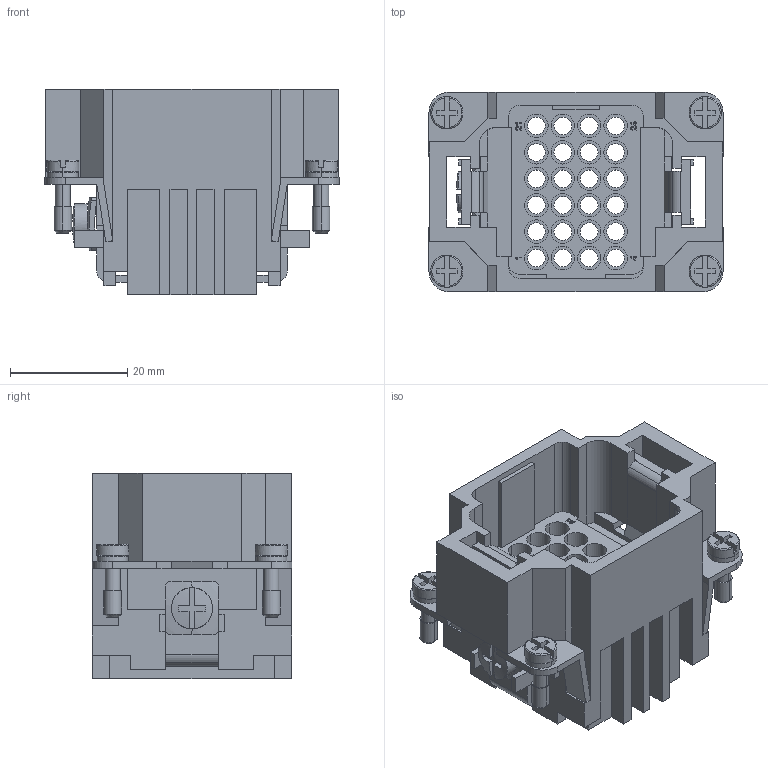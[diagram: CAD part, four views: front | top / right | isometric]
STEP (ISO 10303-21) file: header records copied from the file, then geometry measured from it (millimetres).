
FILE_DESCRIPTION((''),'2;1');
FILE_NAME('B:\MITARBEITER\Gembarski\Inventor\TEMP\Konvertierungsformate\IPT\STP\CDDM 24.stp','2006-12-14T14:38:34',('gembarski'),(''),'Autodesk Inventor 7','Autodesk Inventor 7','');
FILE_SCHEMA(('AUTOMOTIVE_DESIGN { 1 0 10303 214 1 1 1 1 }'));
Length unit declared in the file: millimetre
Products named in the file (1): CDDM 24
Bounding box: 50.1 x 34 x 35.01 mm (x, y, z)
Volume: 18452.1 mm3; surface area: 21024.7 mm2
Topology: 1 solids, 1 shells, 863 faces, 2252 edges, 1457 vertices
Faces by surface type: plane 423, bspline 216, cylinder 208, torus 8, cone 4, sphere 4
Entity records: 27338 total; most frequent: CARTESIAN_POINT 6319, ORIENTED_EDGE 4512, DIRECTION 4007, EDGE_CURVE 2256, VECTOR 1593, LINE 1593, VERTEX_POINT 1457, AXIS2_PLACEMENT_3D 1207
